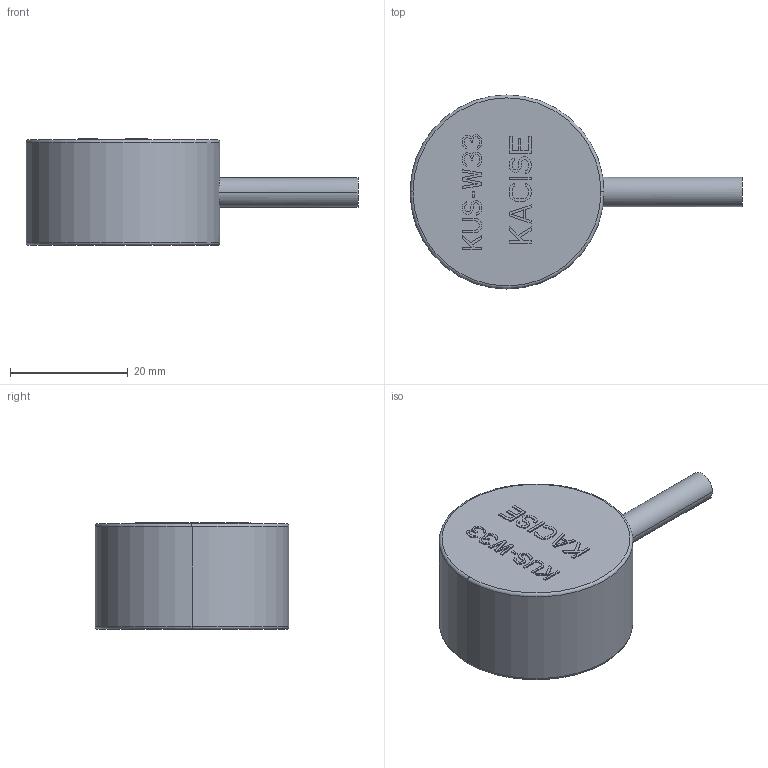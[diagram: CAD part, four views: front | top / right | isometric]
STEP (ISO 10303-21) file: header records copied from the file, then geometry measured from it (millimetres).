
FILE_DESCRIPTION((''),'2;1');
FILE_NAME('KUS-W33','2025-12-24T15:54:18',('28740194'),(''),'CREO PARAMETRIC BY PTC INC, 2024063','CREO PARAMETRIC BY PTC INC, 2024063','');
FILE_SCHEMA(('CONFIG_CONTROL_DESIGN'));
Length unit declared in the file: millimetre
Products named in the file (1): KUS-W33
Bounding box: 56.5 x 33 x 18.2 mm (x, y, z)
Volume: 15855.1 mm3; surface area: 3944.9 mm2
Topology: 1 solids, 1 shells, 381 faces, 1091 edges, 726 vertices
Faces by surface type: plane 373, torus 4, cylinder 4
Entity records: 12249 total; most frequent: CARTESIAN_POINT 2230, ORIENTED_EDGE 2182, DIRECTION 1863, EDGE_CURVE 1091, VECTOR 1073, LINE 1073, VERTEX_POINT 726, AXIS2_PLACEMENT_3D 395
